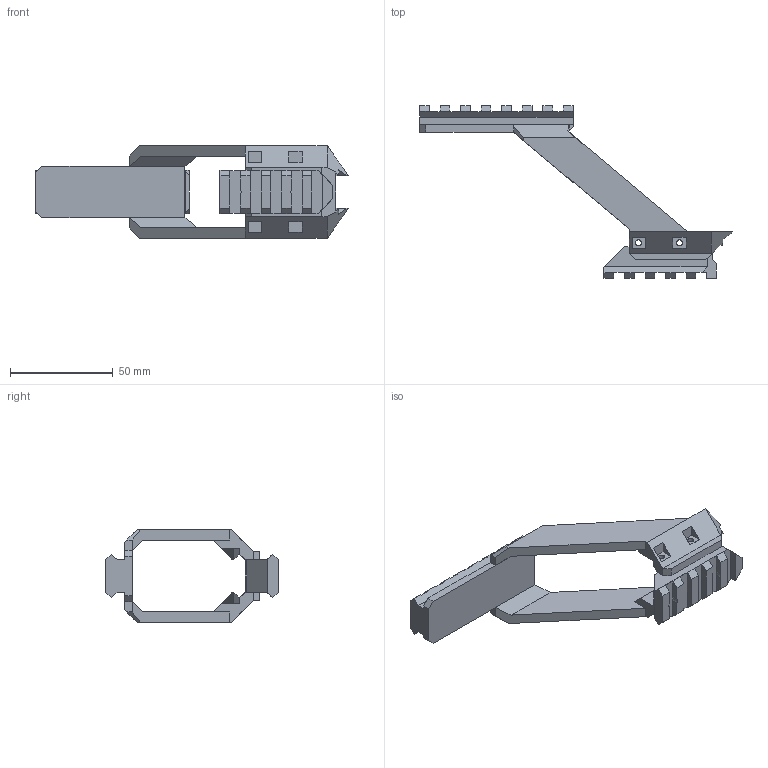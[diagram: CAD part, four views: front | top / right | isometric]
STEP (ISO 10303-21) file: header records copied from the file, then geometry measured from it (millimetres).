
FILE_DESCRIPTION(/* description */ (''),/* implementation_level */ '2;1');
FILE_NAME(/* name */ 'C:/Users/aleha/Desktop/Big-Point Final_Sight Mount v1.step',/* time_stamp */ '2020-10-31T21:38:08-04:00',/* author */ (''),/* organization */ (''),/* preprocessor_version */ 'ST-DEVELOPER v18.1',/* originating_system */ 'Autodesk Translation Framework v9.3.0.1241',/* authorisation */ '');
FILE_SCHEMA (('AUTOMOTIVE_DESIGN { 1 0 10303 214 3 1 1 }'));
Length unit declared in the file: millimetre
Products named in the file (1): Big-Point Final_Sight Mount
Bounding box: 152.28 x 84 x 45.02 mm (x, y, z)
Volume: 52855.8 mm3; surface area: 22558.8 mm2
Topology: 1 solids, 1 shells, 211 faces, 619 edges, 408 vertices
Faces by surface type: plane 199, cylinder 12
Full cylindrical faces by diameter (mm): 3 x2
Entity records: 6926 total; most frequent: CARTESIAN_POINT 1239, ORIENTED_EDGE 1238, DIRECTION 1075, EDGE_CURVE 619, LINE 587, VECTOR 587, VERTEX_POINT 408, AXIS2_PLACEMENT_3D 244
